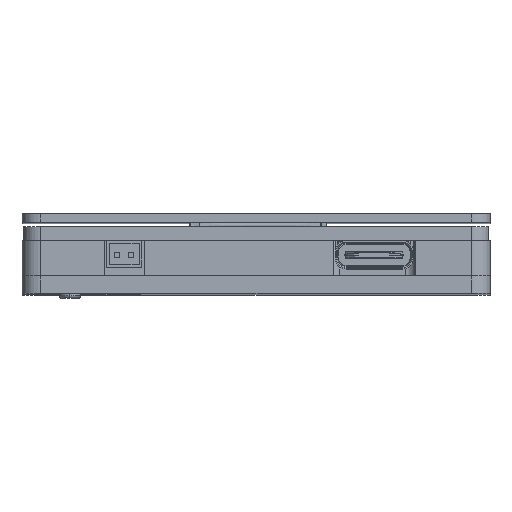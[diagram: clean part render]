
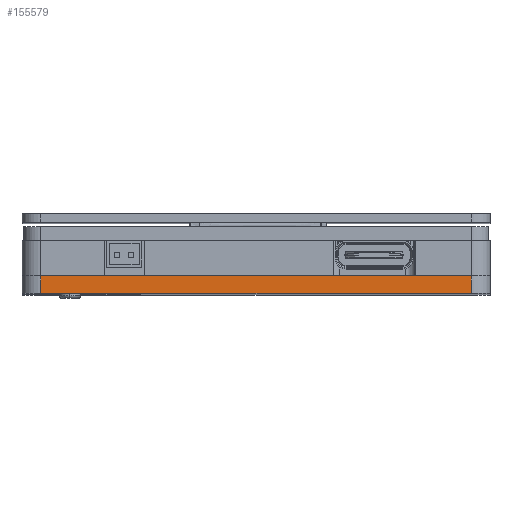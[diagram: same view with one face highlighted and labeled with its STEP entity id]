
A CAD part, top view. The second image highlights one B-rep face of the part: STEP entity #155579.
In plain terms, the highlighted planar face has unit normal (0, 0, 1).
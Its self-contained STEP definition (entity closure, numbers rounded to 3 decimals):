
#154577=DIRECTION('',(1.,0.,0.));
#154578=VECTOR('',#154577,49.);
#154579=CARTESIAN_POINT('',(-24.5,-6.1,53.645));
#154580=LINE('',#154579,#154578);
#154701=DIRECTION('',(1.,0.,0.));
#154702=VECTOR('',#154701,49.);
#154703=CARTESIAN_POINT('',(-24.5,-8.1,53.645));
#154704=LINE('',#154703,#154702);
#154856=DIRECTION('',(0.,-1.,0.));
#154857=VECTOR('',#154856,2.);
#154858=CARTESIAN_POINT('',(24.5,-6.1,53.645));
#154859=LINE('',#154858,#154857);
#154860=DIRECTION('',(0.,-1.,0.));
#154861=VECTOR('',#154860,2.);
#154862=CARTESIAN_POINT('',(-24.5,-6.1,53.645));
#154863=LINE('',#154862,#154861);
#154893=CARTESIAN_POINT('',(-24.5,-6.1,53.645));
#154895=VERTEX_POINT('',#154893);
#154896=CARTESIAN_POINT('',(24.5,-6.1,53.645));
#154897=VERTEX_POINT('',#154896);
#154933=CARTESIAN_POINT('',(-24.5,-8.1,53.645));
#154935=VERTEX_POINT('',#154933);
#154936=CARTESIAN_POINT('',(24.5,-8.1,53.645));
#154937=VERTEX_POINT('',#154936);
#155567=CARTESIAN_POINT('',(-24.5,-6.1,53.645));
#155568=DIRECTION('',(0.,0.,1.));
#155569=DIRECTION('',(1.,0.,0.));
#155570=AXIS2_PLACEMENT_3D('',#155567,#155568,#155569);
#155571=PLANE('',#155570);
#155572=ORIENTED_EDGE('',*,*,#155023,.T.);
#155573=ORIENTED_EDGE('',*,*,#155562,.T.);
#155574=ORIENTED_EDGE('',*,*,#155125,.F.);
#155576=ORIENTED_EDGE('',*,*,#155575,.F.);
#155577=EDGE_LOOP('',(#155572,#155573,#155574,#155576));
#155578=FACE_OUTER_BOUND('',#155577,.F.);
#155579=ADVANCED_FACE('',(#155578),#155571,.T.);
#155023=EDGE_CURVE('',#154895,#154897,#154580,.T.);
#155125=EDGE_CURVE('',#154935,#154937,#154704,.T.);
#155562=EDGE_CURVE('',#154897,#154937,#154859,.T.);
#155575=EDGE_CURVE('',#154895,#154935,#154863,.T.);
